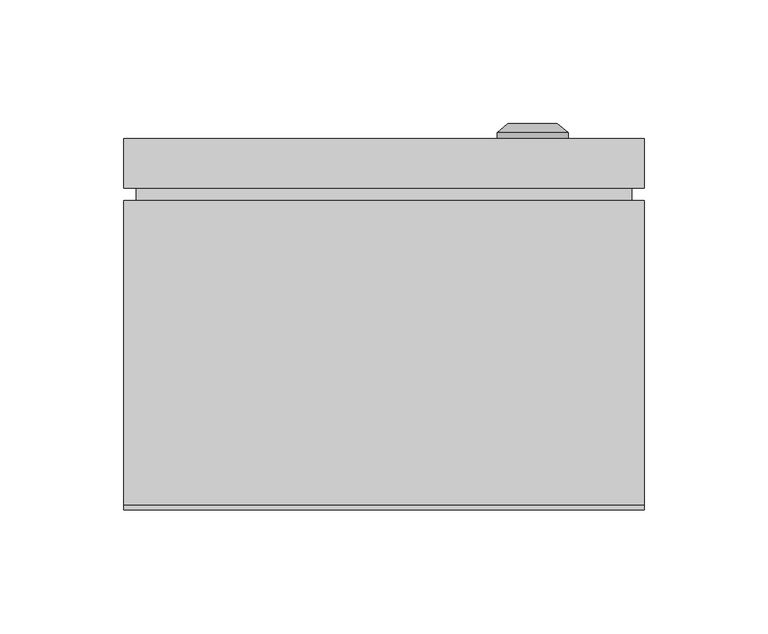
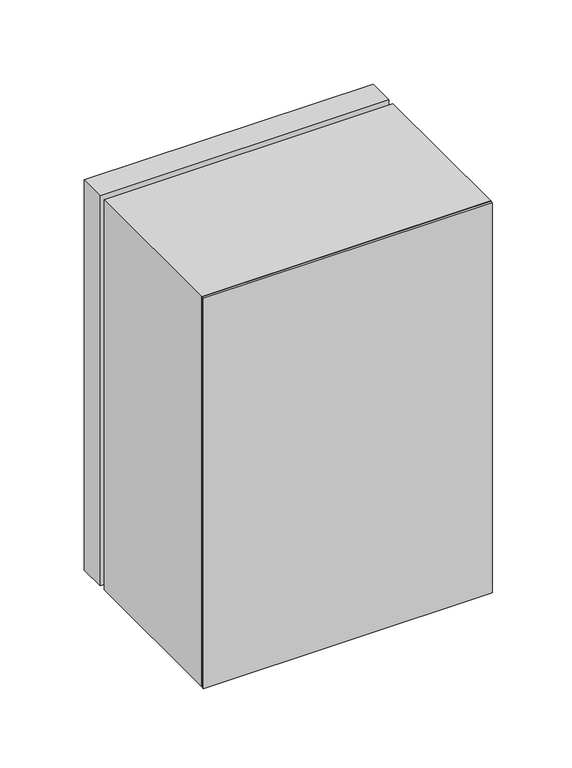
"""IFC4 building model written with IfcOpenShell, lengths in millimetres: proxy geometry, ЩМП_IP65 : ЩМП-3.2.1-0_300х210х150."""

from ifc_helpers import new_model, si_unit, frame, origin, origin_with_axes, place, context, project, spatial, polyline, circle_curve, outline, extrude, source, transform, mapped, element, save
from ifc_brep_helpers import plane_surface, cylinder_surface, revolved_surface, advanced_brep


def electrical_equipment_2e995482(model_context):
    return source(origin(), model_context, "Body", "SolidModel", [
        extrude(outline(polyline([(100.0, 125.0), (-100.0, 125.0), (-100.0, 130.0), (100.0, 130.0), (100.0, 125.0)])), frame((0.0, 0.0, 5.0), z_axis=(0.0, 0.0, 1.0), x_axis=(1.0, 0.0, 0.0)), (0.0, 0.0, 1.0), 290.0),
        extrude(outline(polyline([(105.0, 130.0), (-105.0, 130.0), (-105.0, 150.0), (105.0, 150.0), (105.0, 130.0)])), origin_with_axes(), (0.0, 0.0, 1.0), 300.0),
        advanced_brep(
        [(45.669873, 150.0, 150.0), (74.330127, 150.0, 150.0), (60.0, 150.0, 150.0), (45.669873, 152.366592, 150.0), (74.330127, 152.366592, 150.0), (50.0, 156.0, 150.0), (70.0, 156.0, 150.0), (58.1080471, 156.0, 150.0), (61.8919529, 156.0, 150.0), (58.1080471, 154.9822294, 150.0), (61.8919529, 154.9822294, 150.0), (60.0, 154.9822294, 150.0)],
        [
            (0, 1, circle_curve(frame((60.0, 150.0, 150.0), z_axis=(0.0, -1.0, 0.0), x_axis=(1.0, 0.0, 0.0)), 14.330127)),
            (1, 2),
            (2, 0),
            (1, 0, circle_curve(frame((60.0, 150.0, 150.0), z_axis=(0.0, -1.0, 0.0), x_axis=(1.0, 0.0, 0.0)), 14.330127)),
            (3, 4, circle_curve(frame((60.0, 152.366592, 150.0), z_axis=(0.0, -1.0, 0.0), x_axis=(1.0, 0.0, 0.0)), 14.330127)),
            (4, 1),
            (0, 3),
            (4, 3, circle_curve(frame((60.0, 152.366592, 150.0), z_axis=(0.0, -1.0, 0.0), x_axis=(1.0, 0.0, 0.0)), 14.330127)),
            (5, 6, circle_curve(frame((60.0, 156.0, 150.0), z_axis=(0.0, -1.0, 0.0), x_axis=(1.0, 0.0, 0.0)), 10.0)),
            (6, 4),
            (3, 5),
            (6, 5, circle_curve(frame((60.0, 156.0, 150.0), z_axis=(0.0, -1.0, 0.0), x_axis=(1.0, 0.0, 0.0)), 10.0)),
            (7, 8, circle_curve(frame((60.0, 156.0, 150.0), z_axis=(0.0, -1.0, 0.0), x_axis=(1.0, 0.0, 0.0)), 1.8919529)),
            (8, 6),
            (5, 7),
            (8, 7, circle_curve(frame((60.0, 156.0, 150.0), z_axis=(0.0, -1.0, 0.0), x_axis=(1.0, 0.0, 0.0)), 1.8919529)),
            (9, 10, circle_curve(frame((60.0, 154.9822294, 150.0), z_axis=(0.0, -1.0, 0.0), x_axis=(1.0, 0.0, 0.0)), 1.8919529)),
            (10, 8),
            (7, 9),
            (10, 9, circle_curve(frame((60.0, 154.9822294, 150.0), z_axis=(0.0, -1.0, 0.0), x_axis=(1.0, 0.0, 0.0)), 1.8919529)),
            (11, 10),
            (9, 11),
        ],
        [
            plane_surface(frame((60.0, 150.0, 150.0), z_axis=(0.0, -1.0, 0.0), x_axis=(1.0, 0.0, 0.0))),
            cylinder_surface(frame((60.0, 163.1348851, 150.0), z_axis=(0.0, 1.0, 0.0), x_axis=(1.0, 0.0, 0.0)), 14.330127),
            revolved_surface(polyline([(74.330127, 152.366592, 150.0), (70.0, 156.0, 150.0)]), (60.0, 163.1348851, 150.0), (0.0, 1.0, 0.0)),
            plane_surface(frame((60.0, 156.0, 150.0), z_axis=(0.0, 1.0, 0.0), x_axis=(1.0, 0.0, 0.0))),
            revolved_surface(polyline([(61.8919529, 156.0, 150.0), (61.8919529, 154.9822294, 150.0)]), (60.0, 163.1348851, 150.0), (0.0, 1.0, 0.0)),
            plane_surface(frame((60.0, 154.9822294, 150.0), z_axis=(0.0, 1.0, 0.0), x_axis=(1.0, 0.0, 0.0))),
        ],
        [
            (0, [[1, 2, 3]]),
            (0, [[4, -3, -2]]),
            (1, [[5, 6, -1, 7]]),
            (1, [[8, -7, -4, -6]]),
            (2, [[9, 10, -5, 11]]),
            (2, [[12, -11, -8, -10]]),
            (3, [[13, 14, -9, 15]]),
            (3, [[16, -15, -12, -14]]),
            (4, [[17, 18, -13, 19]]),
            (4, [[20, -19, -16, -18]]),
            (5, [[21, -17, 22]]),
            (5, [[-22, -20, -21]]),
        ],
    ),
        extrude(outline(polyline([(300.0, -105.0033905), (0.0, -105.0033905), (0.0, 104.9966095), (300.0, 104.9966095), (300.0, -105.0033905)]), holes=[polyline([(265.0, -70.0033905), (265.0, 69.9966095), (35.0, 69.9966095), (35.0, -70.0033905), (265.0, -70.0033905)])]), frame((0.0, 2.0, 0.0), z_axis=(0.0, 1.0, 0.0), x_axis=(0.0, 0.0, 1.0)), (0.0, 0.0, 1.0), 123.0),
        extrude(outline(polyline([(105.0, 0.0), (-105.0, 0.0), (-105.0, 2.0), (105.0, 2.0), (105.0, 0.0)])), origin_with_axes(), (0.0, 0.0, 1.0), 300.0),
    ])


if __name__ == "__main__":
    model = new_model("IFC4")
    model_context = context("Model", 3, world=origin())
    ifc_project = project(units=[si_unit("LENGTHUNIT", "METRE", prefix="MILLI")], contexts=[model_context])
    site = spatial("IfcSite", under=ifc_project)
    building = spatial("IfcBuilding", under=site)
    placement = place(None, origin())
    electrical_equipment_shape = electrical_equipment_2e995482(model_context)
    element("IfcBuildingElementProxy", 1, Name="ЩМП_IP65 : ЩМП-3.2.1-0_300х210х150", ObjectType="ЩМП_IP65 : ЩМП-3.2.1-0_300х210х150", at=placement, inside=building, context=model_context, shape_type="MappedRepresentation", body=[
        mapped(electrical_equipment_shape, transform((0.0, 0.0, 0.0), x_axis=(1.0, 0.0, 0.0), y_axis=(0.0, 1.0, 0.0), z_axis=(0.0, 0.0, 1.0))),
    ])
    save(model, "model.ifc")
